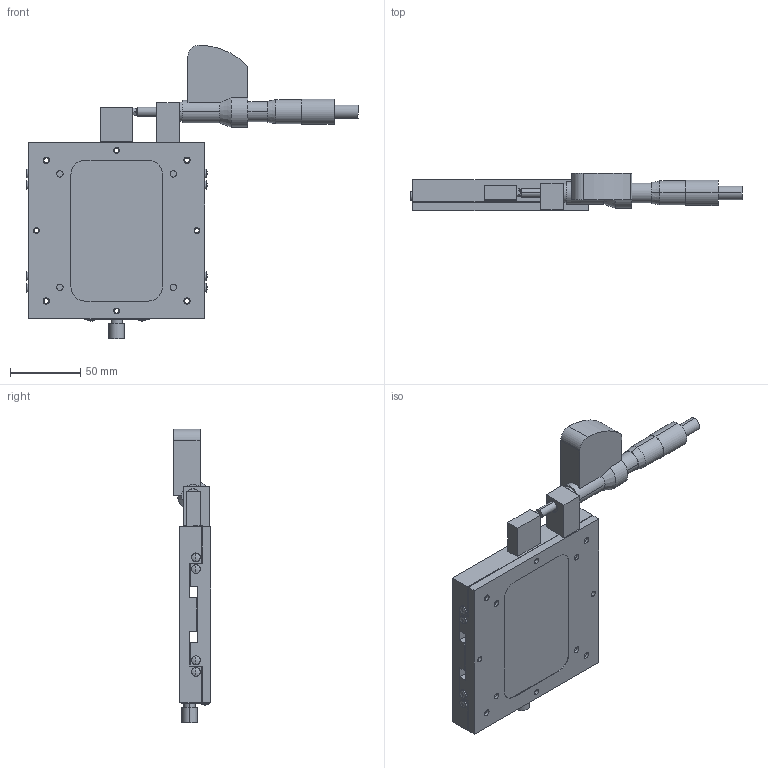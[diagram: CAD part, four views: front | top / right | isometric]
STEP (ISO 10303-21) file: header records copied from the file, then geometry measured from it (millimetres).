
FILE_DESCRIPTION (( 'STEP AP203' ), '1' );
FILE_NAME ('LS-147-S7.STEP', '2008-01-18T04:16:14', ( '' ), ( '' ), 'SwSTEP 2.0', 'SolidWorks 2007', '' );
FILE_SCHEMA (( 'CONFIG_CONTROL_DESIGN' ));
Length unit declared in the file: millimetre
Products named in the file (3): LS-147-S7; LS-147-S7-1_蹬怮椔; LS-147-S7-2_蹬怮椔
Assembly tree (2 placements, depth 2):
  LS-147-S7
    LS-147-S7-2_蹬怮椔
    LS-147-S7-1_蹬怮椔
Bounding box: 235.9 x 26.5 x 208.51 mm (x, y, z)
Volume: 382919.2 mm3; surface area: 109462.4 mm2
Topology: 3 solids, 3 shells, 306 faces, 734 edges, 483 vertices
Faces by surface type: cylinder 156, plane 106, cone 24, sphere 18, bspline 2
Entity records: 9888 total; most frequent: CARTESIAN_POINT 1943, DIRECTION 1727, ORIENTED_EDGE 1468, EDGE_CURVE 734, AXIS2_PLACEMENT_3D 689, VERTEX_POINT 483, EDGE_LOOP 425, CIRCLE 380
